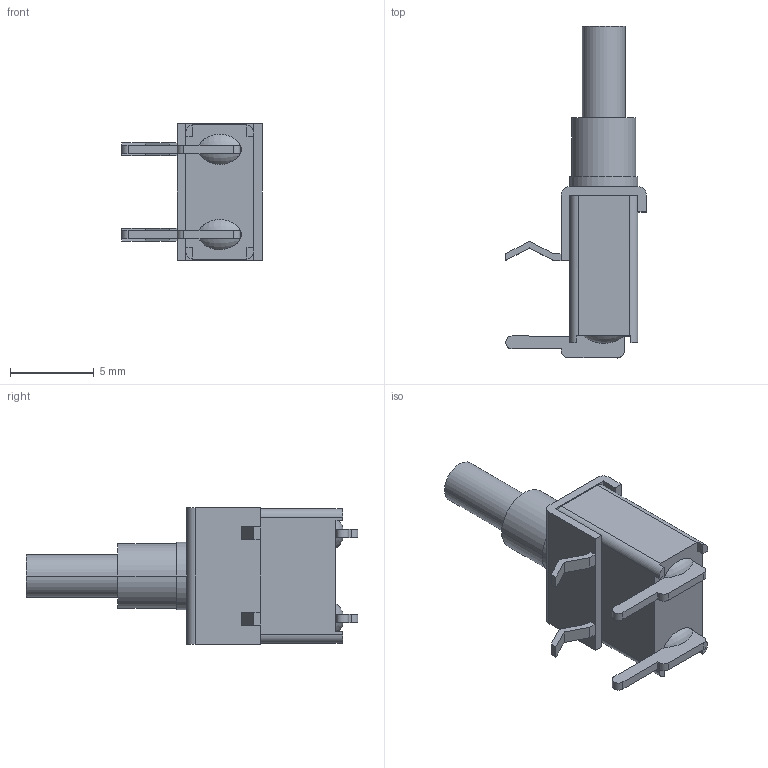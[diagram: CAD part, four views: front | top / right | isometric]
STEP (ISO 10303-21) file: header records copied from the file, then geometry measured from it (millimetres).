
FILE_DESCRIPTION(('STEP AP242'),'1');
FILE_NAME('7346820.stp','2025-07-02T15:19:54',('TraceParts'),('TraceParts S.A.'),'Spatial InterOp 3D',' ',' ');
FILE_SCHEMA(('AP242_MANAGED_MODEL_BASED_3D_ENGINEERING_MIM_LF {1 0 10303 442 1 1 4}'));
Length unit declared in the file: millimetre
Products named in the file (1): 7346820P
Bounding box: 8.38 x 19.76 x 8.13 mm (x, y, z)
Volume: 397.1 mm3; surface area: 508.1 mm2
Topology: 1 solids, 1 shells, 85 faces, 228 edges, 152 vertices
Faces by surface type: plane 65, cylinder 18, torus 2
Entity records: 3545 total; most frequent: CARTESIAN_POINT 680, ORIENTED_EDGE 456, DIRECTION 438, EDGE_CURVE 228, LINE 178, VECTOR 178, VERTEX_POINT 152, AXIS2_PLACEMENT_3D 130
